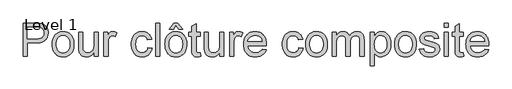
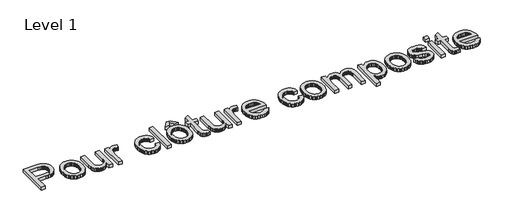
# One storey, part 3 of 4: 1 proxy.
"""IFC4 building model written with IfcOpenShell, lengths in millimetres."""

from ifc_helpers import new_model, si_unit, origin, origin_with_axes, place, context, project, spatial, polyline, outline, extrude, element, save

model = new_model("IFC4")

# Units and contexts
model_context = context("Model", 3, world=origin())
ifc_project = project(units=[si_unit("LENGTHUNIT", "METRE", prefix="MILLI")], contexts=[model_context])

# Site, building, storey
site = spatial("IfcSite", under=ifc_project)
building = spatial("IfcBuilding", under=site)
storey = spatial("IfcBuildingStorey", under=building, Name="Level 1", Elevation=0.0)

# Proxy
placement = place(None, origin())
element("IfcBuildingElementProxy", 1, Name="24\" Arial", ObjectType="24\" Arial", at=placement, inside=storey, context=model_context, shape_type="SweptSolid", body=[
    extrude(outline(polyline([(-79427.594753, 8375.4761138), (-79427.594753, 9882.320766), (-78869.1498843, 9882.320766), (-78739.103599, 9878.7339166), (-78644.0061033, 9867.9733682), (-78591.5944153, 9856.6724932), (-78543.6203038, 9841.1639678), (-78500.083769, 9821.4477922), (-78460.9848107, 9797.5239662), (-78425.9095617, 9768.8981484), (-78394.4441548, 9735.0759975), (-78366.58859, 9696.0575134), (-78342.3428672, 9651.8426961), (-78322.7071657, 9603.8915773), (-78308.6816647, 9553.6641886), (-78300.266364, 9501.1605301), (-78297.4612638, 9446.3806018), (-78299.3552813, 9399.205484), (-78305.0373336, 9353.8812726), (-78314.5074209, 9310.4079674), (-78327.7655432, 9268.7855686), (-78344.8117003, 9229.014076), (-78365.6458924, 9191.0934897), (-78390.2681193, 9155.0238097), (-78418.6783812, 9120.805036), (-78452.0320574, 9089.592548), (-78491.4845273, 9062.541725), (-78537.0357909, 9039.6525672), (-78588.6858482, 9020.9250743), (-78646.4346993, 9006.3592466), (-78710.282344, 8995.9550839), (-78780.2287824, 8989.7125863), (-78856.2740145, 8987.6317538), (-79239.2391715, 8987.6317538), (-79239.2391715, 8375.4761138), (-79427.594753, 8375.4761138)]), holes=[polyline([(-79239.2391715, 9175.9873353), (-78845.2375546, 9175.9873353), (-78754.6466133, 9180.3099487), (-78678.2191288, 9193.2777891), (-78645.3166829, 9203.0036693), (-78615.9551011, 9214.8908563), (-78590.1343836, 9228.93935), (-78567.8545303, 9245.1491504), (-78531.9630431, 9283.2479295), (-78506.3262666, 9328.3824518), (-78490.9442006, 9380.5527172), (-78485.8168453, 9439.7587258), (-78488.8403755, 9483.7206243), (-78497.9109659, 9524.3715847), (-78513.0286167, 9561.7116072), (-78534.1933277, 9595.7406918), (-78560.2784604, 9625.3551924), (-78590.1573762, 9649.4514631), (-78623.8300751, 9668.0295039), (-78661.296557, 9681.0893147), (-78733.9532511, 9690.7462171), (-78849.6521386, 9693.9651845), (-79239.2391715, 9693.9651845), (-79239.2391715, 9175.9873353)])]), origin_with_axes(), (0.0, 0.0, 1.0), 150.0),
    extrude(outline(polyline([(-78109.1056823, 8928.7706345), (-78106.5592491, 9002.9046047), (-78098.9199495, 9072.0836643), (-78086.1877836, 9136.3078132), (-78068.3627513, 9195.5770515), (-78045.4448526, 9249.8913792), (-78017.4340876, 9299.2507963), (-77984.3304562, 9343.6553028), (-77946.1339584, 9383.1048986), (-77911.1736726, 9411.8169387), (-77874.3509841, 9436.7007068), (-77835.6658931, 9457.7562028), (-77795.1183994, 9474.9834269), (-77752.7085031, 9488.3823789), (-77708.4362043, 9497.953059), (-77662.3015028, 9503.695467), (-77614.3043988, 9505.609603), (-77561.1023393, 9503.2787257), (-77510.3892314, 9496.2860937), (-77462.1650752, 9484.631707), (-77416.4298706, 9468.3155657), (-77373.1836176, 9447.3376698), (-77332.4263163, 9421.6980191), (-77294.1579665, 9391.3966139), (-77258.3785684, 9356.4334539), (-77226.0020788, 9317.3603623), (-77197.9424544, 9274.7291621), (-77174.1996953, 9228.5398531), (-77154.7738015, 9178.7924355), (-77139.664773, 9125.4869092), (-77128.8726098, 9068.6232743), (-77122.3973119, 9008.2015306), (-77120.2388792, 8944.2216783), (-77124.0556549, 8843.399019), (-77135.505982, 8753.9347163), (-77154.5898605, 8675.8287702), (-77181.3072904, 8609.0811807), (-77215.3248787, 8551.4271743), (-77256.3092322, 8500.6019774), (-77304.260351, 8456.60559), (-77359.1782351, 8419.4380122), (-77418.9245704, 8389.9039858), (-77481.3610428, 8368.8082526), (-77546.4876522, 8356.1508127), (-77614.3043988, 8351.9316661), (-77668.345689, 8354.2539212), (-77719.7370793, 8361.2206865), (-77768.4785696, 8372.831962), (-77814.5701599, 8389.0877476), (-77858.0118502, 8409.9880435), (-77898.8036405, 8435.5328495), (-77936.9455308, 8465.7221657), (-77972.4375211, 8500.5559922), (-78004.4691214, 8539.7584173), (-78032.2298416, 8583.0535296), (-78055.7196818, 8630.4413291), (-78074.938642, 8681.9218158), (-78089.8867221, 8737.4949897), (-78100.5639222, 8797.1608508), (-78106.9702423, 8860.9193991), (-78109.1056823, 8928.7706345)]), holes=[polyline([(-77920.7501008, 8929.1385165), (-77915.3008487, 8837.7773223), (-77908.4892836, 8796.692376), (-77898.9530925, 8758.671197), (-77886.6922754, 8723.7137852), (-77871.7068323, 8691.8201407), (-77853.9967631, 8662.9902634), (-77833.5620679, 8637.2241534), (-77811.0637846, 8614.5045661), (-77787.1629513, 8594.8142571), (-77761.8595678, 8578.1532264), (-77735.1536342, 8564.5214741), (-77707.0451505, 8553.919), (-77677.5341167, 8546.3458042), (-77614.3043988, 8540.2872476), (-77551.3965776, 8546.3802932), (-77522.0120032, 8553.9966001), (-77494.0069863, 8564.6594298), (-77467.3815269, 8578.3687823), (-77442.135625, 8595.1246575), (-77418.2692806, 8614.9270556), (-77395.7824936, 8637.7759764), (-77375.3477984, 8663.746146), (-77357.6377293, 8692.9122904), (-77342.6522861, 8725.2744096), (-77330.391469, 8760.8325037), (-77320.8552779, 8799.5865727), (-77314.0437128, 8841.5366164), (-77308.5944608, 8935.0246285), (-77314.0782018, 9023.488752), (-77320.932878, 9063.4355633), (-77330.5294247, 9100.525541), (-77342.867842, 9134.7586851), (-77357.9481297, 9166.1349956), (-77375.7702879, 9194.6544725), (-77396.3343166, 9220.3171157), (-77442.8598927, 9262.727012), (-77468.1144169, 9279.3880426), (-77494.6967651, 9293.019795), (-77522.6069374, 9303.6222691), (-77551.8449338, 9311.1954648), (-77614.3043988, 9317.2540214), (-77677.5341167, 9311.2184575), (-77707.0451505, 9303.6740025), (-77735.1536342, 9293.1117655), (-77761.8595678, 9279.5317466), (-77787.1629513, 9262.9339456), (-77811.0637846, 9243.3183627), (-77833.5620679, 9220.6849977), (-77853.9967631, 9195.00511), (-77871.7068323, 9166.2499587), (-77886.6922754, 9134.4195439), (-77898.9530925, 9099.5138656), (-77908.4892836, 9061.5329236), (-77915.3008487, 9020.4767182), (-77920.7501008, 8929.1385165)])]), origin_with_axes(), (0.0, 0.0, 1.0), 150.0),
    extrude(outline(polyline([(-76202.0054193, 8375.4761138), (-76202.0054193, 8565.6711053), (-76234.677939, 8515.5759242), (-76270.1555589, 8472.1601007), (-76308.438279, 8435.4236345), (-76349.5260994, 8405.3665259), (-76393.4190199, 8381.9887747), (-76440.1170407, 8365.2903811), (-76489.6201616, 8355.2713448), (-76541.9283828, 8351.9316661), (-76588.5919147, 8354.2769138), (-76633.6689554, 8361.312657), (-76677.159505, 8373.0388956), (-76719.0635635, 8389.4556296), (-76757.5302246, 8409.4132279), (-76790.7085821, 8431.7620591), (-76818.5986358, 8456.5021232), (-76841.2003859, 8483.6334204), (-76859.6749598, 8513.5468251), (-76875.1834852, 8546.6332121), (-76887.725962, 8582.8925812), (-76897.3023902, 8622.3249326), (-76905.5797351, 8693.6940396), (-76908.33885, 8797.4367623), (-76908.33885, 9482.0651553), (-76719.9832685, 9482.0651553), (-76719.9832685, 8886.0963231), (-76717.132183, 8766.9025567), (-76708.5789266, 8694.0619216), (-76697.3010442, 8660.1133113), (-76681.1257328, 8630.0044692), (-76660.0529922, 8603.7353955), (-76634.0828226, 8581.3060901), (-76603.9969732, 8563.3603465), (-76570.5771932, 8550.5419583), (-76533.8234826, 8542.8509253), (-76493.7358415, 8540.2872476), (-76452.4525838, 8542.9084069), (-76412.4799058, 8550.7718845), (-76373.8178073, 8563.8776806), (-76336.4662885, 8582.2257951), (-76302.4487003, 8605.0919603), (-76273.7883936, 8631.7519087), (-76250.4853685, 8662.2056401), (-76232.5396249, 8696.4531546), (-76219.1809099, 8736.6787515), (-76209.6389707, 8785.0667302), (-76203.9138071, 8841.6170906), (-76202.0054193, 8906.3298328), (-76202.0054193, 9482.0651553), (-76013.6498378, 9482.0651553), (-76013.6498378, 8375.4761138), (-76202.0054193, 8375.4761138)])), origin_with_axes(), (0.0, 0.0, 1.0), 150.0),
    extrude(outline(polyline([(-75754.6609131, 8375.4761138), (-75754.6609131, 9482.0651553), (-75589.8497793, 9482.0651553), (-75589.8497793, 9318.3576674), (-75558.809736, 9370.6888812), (-75528.9653091, 9413.2712222), (-75500.3164987, 9446.1046903), (-75472.8633048, 9469.1892855), (-75445.3641257, 9485.1231744), (-75416.5773596, 9496.5045236), (-75386.5030065, 9503.3333331), (-75355.1410664, 9505.609603), (-75308.420053, 9501.9767683), (-75261.3311576, 9491.0782642), (-75213.8743802, 9472.9140907), (-75166.0497209, 9447.4842477), (-75228.957542, 9278.626412), (-75262.0669216, 9295.5259911), (-75295.1763012, 9307.5971191), (-75328.2856807, 9314.8397959), (-75361.3950603, 9317.2540214), (-75390.2623006, 9314.9317664), (-75417.6350203, 9307.9650011), (-75443.5132194, 9296.3537256), (-75467.8968979, 9280.0979399), (-75489.8663508, 9259.7264745), (-75508.5018731, 9235.7681595), (-75523.8034649, 9208.2229951), (-75535.771126, 9177.0909813), (-75549.129841, 9125.6794725), (-75558.6717802, 9071.8767307), (-75564.3969438, 9015.6827559), (-75566.3053316, 8957.0975482), (-75566.3053316, 8375.4761138), (-75754.6609131, 8375.4761138)])), origin_with_axes(), (0.0, 0.0, 1.0), 150.0),
    extrude(outline(polyline([(-73753.3828594, 8775.7317245), (-73565.0272779, 8752.1872769), (-73573.827705, 8706.4693167), (-73585.5137065, 8663.3092861), (-73600.0852824, 8622.7071849), (-73617.5424327, 8584.6630133), (-73637.8851574, 8549.1767712), (-73661.1134565, 8516.2484585), (-73687.22733, 8485.8780754), (-73716.2267779, 8458.0656217), (-73747.5312364, 8433.1904759), (-73780.5601418, 8411.6320161), (-73815.313494, 8393.3902425), (-73851.7912931, 8378.465155), (-73889.993539, 8366.8567536), (-73929.9202318, 8358.5650383), (-73971.5713715, 8353.5900092), (-74014.946958, 8351.9316661), (-74069.1319521, 8354.245299), (-74120.5865721, 8361.1861975), (-74169.310818, 8372.7543618), (-74215.3046896, 8388.9497919), (-74258.568187, 8409.7724876), (-74299.1013103, 8435.2224491), (-74336.9040594, 8465.2996763), (-74371.9764343, 8500.0041692), (-74403.5769228, 8539.0312755), (-74430.9640129, 8582.076343), (-74454.1377046, 8629.1393717), (-74473.0979977, 8680.2203616), (-74487.8448924, 8735.3193126), (-74498.3783886, 8794.4362247), (-74504.6984863, 8857.5710981), (-74506.8051855, 8924.7239326), (-74503.2068397, 9011.3256535), (-74492.4118024, 9092.3401666), (-74474.4200736, 9167.767472), (-74449.2316533, 9237.6075695), (-74416.6740967, 9300.4579091), (-74376.5749592, 9354.9159407), (-74328.9342408, 9400.9816643), (-74273.7519416, 9438.6550799), (-74213.5227612, 9467.9476837), (-74150.7413994, 9488.8709722), (-74085.4078563, 9501.4249453), (-74017.5221319, 9505.609603), (-73933.9554375, 9499.8614468), (-73895.1640055, 9492.6762516), (-73858.3671838, 9482.6169783), (-73823.5649722, 9469.6836269), (-73790.7573708, 9453.8761974), (-73759.9443797, 9435.1946898), (-73731.1259987, 9413.6391042), (-73704.5551468, 9389.4393667), (-73680.4847428, 9362.8254036), (-73658.9147867, 9333.7972149), (-73639.8452786, 9302.3548006), (-73623.2762185, 9268.4981608), (-73609.2076062, 9232.2272953), (-73588.5717255, 9152.4428876), (-73776.9273071, 9128.8984399), (-73791.6310906, 9172.8948273), (-73811.0943474, 9211.0740806), (-73835.3170775, 9243.4361999), (-73864.2992809, 9269.9811851), (-73897.3051937, 9290.663051), (-73933.5990518, 9305.4358124), (-73973.1808552, 9314.2994692), (-74016.0506039, 9317.2540214), (-74080.0505748, 9311.4368874), (-74109.6966903, 9304.1654698), (-74137.7735591, 9293.9854853), (-74164.2811813, 9280.8969336), (-74189.2195569, 9264.899815), (-74212.5886858, 9245.9941294), (-74234.3885681, 9224.1798767), (-74254.0903734, 9199.2213826), (-74271.1652713, 9170.8829726), (-74285.6132618, 9139.1646468), (-74297.434345, 9104.0664052), (-74306.6285208, 9065.5882478), (-74313.1957892, 9023.7301745), (-74318.449604, 8929.8742805), (-74313.3107524, 8834.6043401), (-74306.8871878, 8792.2203105), (-74297.8941975, 8753.3369081), (-74286.3317814, 8717.9541328), (-74272.1999394, 8686.0719845), (-74255.4986716, 8657.6904634), (-74236.2279781, 8632.8095694), (-74214.8822001, 8611.1246503), (-74191.9556792, 8592.3310536), (-74167.4484153, 8576.4287796), (-74141.3604086, 8563.4178281), (-74113.6916588, 8553.2981991), (-74084.4421661, 8546.0698927), (-74021.2009519, 8540.2872476), (-73970.2377992, 8543.8970897), (-73923.6662379, 8554.7266159), (-73881.4862679, 8572.7758263), (-73843.6978892, 8598.0447209), (-73811.3587626, 8630.8092111), (-73785.5265487, 8671.3452084), (-73766.2012477, 8719.6527129), (-73753.3828594, 8775.7317245)])), origin_with_axes(), (0.0, 0.0, 1.0), 150.0),
    extrude(outline(polyline([(-73400.216144, 8375.4761138), (-73400.216144, 9882.320766), (-73211.8605625, 9882.320766), (-73211.8605625, 8375.4761138), (-73400.216144, 8375.4761138)])), origin_with_axes(), (0.0, 0.0, 1.0), 150.0),
    extrude(outline(polyline([(-72976.4160856, 8928.7706345), (-72973.8696524, 9002.9046047), (-72966.2303528, 9072.0836643), (-72953.4981869, 9136.3078132), (-72935.6731546, 9195.5770515), (-72912.7552559, 9249.8913792), (-72884.7444909, 9299.2507963), (-72851.6408595, 9343.6553028), (-72813.4443617, 9383.1048986), (-72778.4840759, 9411.8169387), (-72741.6613874, 9436.7007068), (-72702.9762963, 9457.7562028), (-72662.4288027, 9474.9834269), (-72620.0189064, 9488.3823789), (-72575.7466076, 9497.953059), (-72529.6119061, 9503.695467), (-72481.6148021, 9505.609603), (-72428.4127426, 9503.2787257), (-72377.6996347, 9496.2860937), (-72329.4754785, 9484.631707), (-72283.7402739, 9468.3155657), (-72240.4940209, 9447.3376698), (-72199.7367196, 9421.6980191), (-72161.4683698, 9391.3966139), (-72125.6889717, 9356.4334539), (-72093.3124821, 9317.3603623), (-72065.2528577, 9274.7291621), (-72041.5100986, 9228.5398531), (-72022.0842048, 9178.7924355), (-72006.9751763, 9125.4869092), (-71996.1830131, 9068.6232743), (-71989.7077152, 9008.2015306), (-71987.5492825, 8944.2216783), (-71991.3660582, 8843.399019), (-72002.8163853, 8753.9347163), (-72021.9002638, 8675.8287702), (-72048.6176937, 8609.0811807), (-72082.635282, 8551.4271743), (-72123.6196355, 8500.6019774), (-72171.5707543, 8456.60559), (-72226.4886384, 8419.4380122), (-72286.2349737, 8389.9039858), (-72348.6714461, 8368.8082526), (-72413.7980555, 8356.1508127), (-72481.6148021, 8351.9316661), (-72535.6560923, 8354.2539212), (-72587.0474826, 8361.2206865), (-72635.7889729, 8372.831962), (-72681.8805632, 8389.0877476), (-72725.3222535, 8409.9880435), (-72766.1140438, 8435.5328495), (-72804.2559341, 8465.7221657), (-72839.7479244, 8500.5559922), (-72871.7795246, 8539.7584173), (-72899.5402449, 8583.0535296), (-72923.0300851, 8630.4413291), (-72942.2490453, 8681.9218158), (-72957.1971254, 8737.4949897), (-72967.8743255, 8797.1608508), (-72974.2806456, 8860.9193991), (-72976.4160856, 8928.7706345)]), holes=[polyline([(-72788.060504, 8929.1385165), (-72782.611252, 8837.7773223), (-72775.7996869, 8796.692376), (-72766.2634958, 8758.671197), (-72754.0026787, 8723.7137852), (-72739.0172356, 8691.8201407), (-72721.3071664, 8662.9902634), (-72700.8724712, 8637.2241534), (-72678.3741879, 8614.5045661), (-72654.4733545, 8594.8142571), (-72629.1699711, 8578.1532264), (-72602.4640375, 8564.5214741), (-72574.3555538, 8553.919), (-72544.84452, 8546.3458042), (-72481.6148021, 8540.2872476), (-72418.7069809, 8546.3802932), (-72389.3224065, 8553.9966001), (-72361.3173896, 8564.6594298), (-72334.6919302, 8578.3687823), (-72309.4460283, 8595.1246575), (-72285.5796839, 8614.9270556), (-72263.0928969, 8637.7759764), (-72242.6582017, 8663.746146), (-72224.9481326, 8692.9122904), (-72209.9626894, 8725.2744096), (-72197.7018723, 8760.8325037), (-72188.1656812, 8799.5865727), (-72181.3541161, 8841.5366164), (-72175.9048641, 8935.0246285), (-72181.3886051, 9023.488752), (-72188.2432813, 9063.4355633), (-72197.839828, 9100.525541), (-72210.1782453, 9134.7586851), (-72225.258533, 9166.1349956), (-72243.0806912, 9194.6544725), (-72263.6447199, 9220.3171157), (-72310.170296, 9262.727012), (-72335.4248202, 9279.3880426), (-72362.0071684, 9293.019795), (-72389.9173407, 9303.6222691), (-72419.1553371, 9311.1954648), (-72481.6148021, 9317.2540214), (-72544.84452, 9311.2184575), (-72574.3555538, 9303.6740025), (-72602.4640375, 9293.1117655), (-72629.1699711, 9279.5317466), (-72654.4733545, 9262.9339456), (-72678.3741879, 9243.3183627), (-72700.8724712, 9220.6849977), (-72721.3071664, 9195.00511), (-72739.0172356, 9166.2499587), (-72754.0026787, 9134.4195439), (-72766.2634958, 9099.5138656), (-72775.7996869, 9061.5329236), (-72782.611252, 9020.4767182), (-72788.060504, 8929.1385165)])]), origin_with_axes(), (0.0, 0.0, 1.0), 150.0),
    extrude(outline(polyline([(-72481.9826841, 9788.1429753), (-72587.9326987, 9599.7873937), (-72776.2882802, 9599.7873937), (-72576.1604748, 9882.320766), (-72387.8048933, 9882.320766), (-72164.1326402, 9599.7873937), (-72352.4882218, 9599.7873937), (-72481.9826841, 9788.1429753)])), origin_with_axes(), (0.0, 0.0, 1.0), 150.0),
    extrude(outline(polyline([(-71375.3936426, 8532.5617257), (-71351.8491949, 8369.9578839), (-71426.4372694, 8356.4382205), (-71492.747999, 8351.9316661), (-71540.8255773, 8353.8860392), (-71583.1549993, 8359.7491585), (-71619.7362652, 8369.521024), (-71650.569375, 8383.2016357), (-71676.4590704, 8400.0552296), (-71698.2100933, 8419.3460417), (-71715.8224439, 8441.0740721), (-71729.2961219, 8465.2393206), (-71739.274921, 8497.6359288), (-71746.4026347, 8544.0580381), (-71750.6792629, 8604.5056484), (-71752.1048056, 8678.9787598), (-71752.1048056, 9293.7095738), (-71893.3714918, 9293.7095738), (-71893.3714918, 9482.0651553), (-71752.1048056, 9482.0651553), (-71752.1048056, 9750.9868938), (-71563.7492241, 9861.7193743), (-71563.7492241, 9482.0651553), (-71375.3936426, 9482.0651553), (-71375.3936426, 9293.7095738), (-71563.7492241, 9293.7095738), (-71563.7492241, 8684.4969897), (-71561.2660206, 8622.5088736), (-71553.8164102, 8587.376143), (-71540.8025846, 8567.9243825), (-71521.6267356, 8552.9791765), (-71494.4494533, 8543.4602298), (-71457.4313275, 8540.2872476), (-71375.3936426, 8532.5617257)])), origin_with_axes(), (0.0, 0.0, 1.0), 150.0),
    extrude(outline(polyline([(-70480.7046303, 8375.4761138), (-70480.7046303, 8565.6711053), (-70513.37715, 8515.5759242), (-70548.8547699, 8472.1601007), (-70587.13749, 8435.4236345), (-70628.2253104, 8405.3665259), (-70672.1182309, 8381.9887747), (-70718.8162517, 8365.2903811), (-70768.3193726, 8355.2713448), (-70820.6275938, 8351.9316661), (-70867.2911257, 8354.2769138), (-70912.3681664, 8361.312657), (-70955.858716, 8373.0388956), (-70997.7627745, 8389.4556296), (-71036.2294356, 8409.4132279), (-71069.4077931, 8431.7620591), (-71097.2978468, 8456.5021232), (-71119.8995969, 8483.6334204), (-71138.3741709, 8513.5468251), (-71153.8826962, 8546.6332121), (-71166.425173, 8582.8925812), (-71176.0016012, 8622.3249326), (-71184.2789461, 8693.6940396), (-71187.038061, 8797.4367623), (-71187.038061, 9482.0651553), (-70998.6824795, 9482.0651553), (-70998.6824795, 8886.0963231), (-70995.831394, 8766.9025567), (-70987.2781377, 8694.0619216), (-70976.0002552, 8660.1133113), (-70959.8249438, 8630.0044692), (-70938.7522032, 8603.7353955), (-70912.7820336, 8581.3060901), (-70882.6961842, 8563.3603465), (-70849.2764042, 8550.5419583), (-70812.5226936, 8542.8509253), (-70772.4350525, 8540.2872476), (-70731.1517948, 8542.9084069), (-70691.1791168, 8550.7718845), (-70652.5170184, 8563.8776806), (-70615.1654995, 8582.2257951), (-70581.1479113, 8605.0919603), (-70552.4876046, 8631.7519087), (-70529.1845795, 8662.2056401), (-70511.2388359, 8696.4531546), (-70497.8801209, 8736.6787515), (-70488.3381817, 8785.0667302), (-70482.6130181, 8841.6170906), (-70480.7046303, 8906.3298328), (-70480.7046303, 9482.0651553), (-70292.3490488, 9482.0651553), (-70292.3490488, 8375.4761138), (-70480.7046303, 8375.4761138)])), origin_with_axes(), (0.0, 0.0, 1.0), 150.0),
    extrude(outline(polyline([(-70033.3601242, 8375.4761138), (-70033.3601242, 9482.0651553), (-69868.5489903, 9482.0651553), (-69868.5489903, 9318.3576674), (-69837.508947, 9370.6888812), (-69807.6645201, 9413.2712222), (-69779.0157097, 9446.1046903), (-69751.5625159, 9469.1892855), (-69724.0633367, 9485.1231744), (-69695.2765706, 9496.5045236), (-69665.2022175, 9503.3333331), (-69633.8402774, 9505.609603), (-69587.119264, 9501.9767683), (-69540.0303686, 9491.0782642), (-69492.5735913, 9472.9140907), (-69444.7489319, 9447.4842477), (-69507.6567531, 9278.626412), (-69540.7661326, 9295.5259911), (-69573.8755122, 9307.5971191), (-69606.9848918, 9314.8397959), (-69640.0942713, 9317.2540214), (-69668.9615116, 9314.9317664), (-69696.3342313, 9307.9650011), (-69722.2124304, 9296.3537256), (-69746.5961089, 9280.0979399), (-69768.5655618, 9259.7264745), (-69787.2010841, 9235.7681595), (-69802.5026759, 9208.2229951), (-69814.470337, 9177.0909813), (-69827.829052, 9125.6794725), (-69837.3709912, 9071.8767307), (-69843.0961548, 9015.6827559), (-69845.0045426, 8957.0975482), (-69845.0045426, 8375.4761138), (-70033.3601242, 8375.4761138)])), origin_with_axes(), (0.0, 0.0, 1.0), 150.0),
    extrude(outline(polyline([(-68552.2672116, 8705.0983815), (-68367.59045, 8681.5539338), (-68395.9058673, 8607.5866601), (-68413.7797589, 8573.8967168), (-68434.1311059, 8542.4025691), (-68456.9599081, 8513.1042171), (-68482.2661657, 8486.0016607), (-68510.0498786, 8461.0949), (-68540.3110467, 8438.383935), (-68572.9002182, 8418.1216845), (-68607.6679408, 8400.5610673), (-68644.6142146, 8385.7020836), (-68683.7390396, 8373.5447333), (-68768.5243432, 8357.3349329), (-68862.0238515, 8351.9316661), (-68922.0518464, 8354.2625434), (-68978.8953629, 8361.2551754), (-69032.5544007, 8372.9095621), (-69083.0289601, 8389.2257034), (-69130.319041, 8410.2035993), (-69174.4246433, 8435.8432499), (-69215.3457671, 8466.1446552), (-69253.0824124, 8501.1078151), (-69286.967793, 8540.2786254), (-69316.3351229, 8583.2029816), (-69341.1844021, 8629.8808839), (-69361.5156305, 8680.3123321), (-69377.3288081, 8734.4973262), (-69388.623935, 8792.4358664), (-69395.4010111, 8854.1279525), (-69397.6600365, 8919.5735847), (-69395.3780185, 8987.2466273), (-69388.5319645, 9051.0224201), (-69377.1218745, 9110.9009629), (-69361.1477485, 9166.8822559), (-69340.6095865, 9218.966299), (-69315.5073884, 9267.1530922), (-69285.8411544, 9311.4426356), (-69251.6108844, 9351.834929), (-69213.7420315, 9387.8758682), (-69173.1600489, 9419.1113489), (-69129.8649366, 9445.541371), (-69083.8566946, 9467.1659345), (-69035.1353229, 9483.9850395), (-68983.7008214, 9495.9986859), (-68929.5531903, 9503.2068737), (-68872.6924294, 9505.609603), (-68817.691197, 9503.2126219), (-68765.2593905, 9496.0216785), (-68715.3970097, 9484.0367729), (-68668.1040548, 9467.257905), (-68623.3805257, 9445.6850749), (-68581.2264224, 9419.3182825), (-68541.6417449, 9388.1575279), (-68504.6264932, 9352.202811), (-68471.1291131, 9311.9024881), (-68442.0980503, 9267.7049152), (-68417.5333049, 9219.6100925), (-68397.4348769, 9167.6180199), (-68381.8027661, 9111.7286974), (-68370.6369728, 9051.9421251), (-68363.9374968, 8988.2583028), (-68361.7043381, 8920.6772306), (-68362.8079841, 8869.9095153), (-69209.304455, 8869.9095153), (-69198.3944545, 8794.7466252), (-69188.8956265, 8760.6658072), (-69176.7009131, 8728.9187407), (-69161.8103146, 8699.5054255), (-69144.2238308, 8672.4258618), (-69123.9414617, 8647.6800494), (-69100.9632074, 8625.2679885), (-69049.310276, 8588.0889144), (-68991.6562696, 8561.5324329), (-68928.0011881, 8545.5985439), (-68858.3450316, 8540.2872476), (-68806.243744, 8542.7474585), (-68758.0971879, 8550.128091), (-68713.9053632, 8562.4291452), (-68673.66827, 8579.6506211), (-68637.3859082, 8602.2523712), (-68605.0582779, 8630.694248), (-68576.685379, 8664.9762514), (-68552.2672116, 8705.0983815)]), holes=[polyline([(-69209.304455, 9058.2650968), (-68550.0599196, 9058.2650968), (-68559.7398146, 9111.5620009), (-68575.5357478, 9157.7771765), (-68597.4477191, 9196.9106238), (-68625.4757286, 9228.9623426), (-68650.2732744, 9249.6557048), (-68676.8412522, 9267.5899521), (-68705.1796621, 9282.7650844), (-68735.2885042, 9295.1811017), (-68800.8174846, 9311.7357915), (-68873.4281934, 9317.2540214), (-68939.6584488, 9312.8509338), (-69000.393467, 9299.6416709), (-69055.6332478, 9277.6262328), (-69105.3777913, 9246.8046194), (-69147.1209015, 9208.6023734), (-69178.3563821, 9164.4450377), (-69199.0842333, 9114.3326122), (-69209.304455, 9058.2650968)])]), origin_with_axes(), (0.0, 0.0, 1.0), 150.0),
    extrude(outline(polyline([(-66878.4041335, 8775.7317245), (-66690.048552, 8752.1872769), (-66698.8489791, 8706.4693167), (-66710.5349806, 8663.3092861), (-66725.1065565, 8622.7071849), (-66742.5637068, 8584.6630133), (-66762.9064315, 8549.1767712), (-66786.1347306, 8516.2484585), (-66812.2486041, 8485.8780754), (-66841.248052, 8458.0656217), (-66872.5525105, 8433.1904759), (-66905.5814159, 8411.6320161), (-66940.3347681, 8393.3902425), (-66976.8125672, 8378.465155), (-67015.0148132, 8366.8567536), (-67054.941506, 8358.5650383), (-67096.5926456, 8353.5900092), (-67139.9682321, 8351.9316661), (-67194.1532263, 8354.245299), (-67245.6078463, 8361.1861975), (-67294.3320921, 8372.7543618), (-67340.3259637, 8388.9497919), (-67383.5894612, 8409.7724876), (-67424.1225844, 8435.2224491), (-67461.9253335, 8465.2996763), (-67496.9977084, 8500.0041692), (-67528.598197, 8539.0312755), (-67555.9852871, 8582.076343), (-67579.1589787, 8629.1393717), (-67598.1192718, 8680.2203616), (-67612.8661665, 8735.3193126), (-67623.3996627, 8794.4362247), (-67629.7197604, 8857.5710981), (-67631.8264596, 8924.7239326), (-67628.2281139, 9011.3256535), (-67617.4330766, 9092.3401666), (-67599.4413478, 9167.767472), (-67574.2529274, 9237.6075695), (-67541.6953708, 9300.4579091), (-67501.5962334, 9354.9159407), (-67453.955515, 9400.9816643), (-67398.7732157, 9438.6550799), (-67338.5440353, 9467.9476837), (-67275.7626736, 9488.8709722), (-67210.4291305, 9501.4249453), (-67142.5434061, 9505.609603), (-67058.9767116, 9499.8614468), (-67020.1852796, 9492.6762516), (-66983.3884579, 9482.6169783), (-66948.5862463, 9469.6836269), (-66915.778645, 9453.8761974), (-66884.9656538, 9435.1946898), (-66856.1472728, 9413.6391042), (-66829.5764209, 9389.4393667), (-66805.5060169, 9362.8254036), (-66783.9360609, 9333.7972149), (-66764.8665528, 9302.3548006), (-66748.2974926, 9268.4981608), (-66734.2288804, 9232.2272953), (-66713.5929997, 9152.4428876), (-66901.9485812, 9128.8984399), (-66916.6523647, 9172.8948273), (-66936.1156215, 9211.0740806), (-66960.3383516, 9243.4361999), (-66989.3205551, 9269.9811851), (-67022.3264678, 9290.663051), (-67058.6203259, 9305.4358124), (-67098.2021293, 9314.2994692), (-67141.0718781, 9317.2540214), (-67205.0718489, 9311.4368874), (-67234.7179644, 9304.1654698), (-67262.7948332, 9293.9854853), (-67289.3024554, 9280.8969336), (-67314.240831, 9264.899815), (-67337.6099599, 9245.9941294), (-67359.4098422, 9224.1798767), (-67379.1116475, 9199.2213826), (-67396.1865454, 9170.8829726), (-67410.634536, 9139.1646468), (-67422.4556191, 9104.0664052), (-67431.6497949, 9065.5882478), (-67438.2170634, 9023.7301745), (-67443.4708781, 8929.8742805), (-67438.3320265, 8834.6043401), (-67431.908462, 8792.2203105), (-67422.9154716, 8753.3369081), (-67411.3530555, 8717.9541328), (-67397.2212135, 8686.0719845), (-67380.5199458, 8657.6904634), (-67361.2492522, 8632.8095694), (-67339.9034742, 8611.1246503), (-67316.9769533, 8592.3310536), (-67292.4696895, 8576.4287796), (-67266.3816827, 8563.4178281), (-67238.7129329, 8553.2981991), (-67209.4634402, 8546.0698927), (-67146.222226, 8540.2872476), (-67095.2590734, 8543.8970897), (-67048.687512, 8554.7266159), (-67006.507542, 8572.7758263), (-66968.7191633, 8598.0447209), (-66936.3800367, 8630.8092111), (-66910.5478229, 8671.3452084), (-66891.2225218, 8719.6527129), (-66878.4041335, 8775.7317245)])), origin_with_axes(), (0.0, 0.0, 1.0), 150.0),
    extrude(outline(polyline([(-66572.3263135, 8928.7706345), (-66569.7798804, 9002.9046047), (-66562.1405808, 9072.0836643), (-66549.4084149, 9136.3078132), (-66531.5833826, 9195.5770515), (-66508.6654839, 9249.8913792), (-66480.6547189, 9299.2507963), (-66447.5510875, 9343.6553028), (-66409.3545897, 9383.1048986), (-66374.3943038, 9411.8169387), (-66337.5716154, 9436.7007068), (-66298.8865243, 9457.7562028), (-66258.3390307, 9474.9834269), (-66215.9291344, 9488.3823789), (-66171.6568355, 9497.953059), (-66125.5221341, 9503.695467), (-66077.52503, 9505.609603), (-66024.3229705, 9503.2787257), (-65973.6098627, 9496.2860937), (-65925.3857065, 9484.631707), (-65879.6505019, 9468.3155657), (-65836.4042489, 9447.3376698), (-65795.6469475, 9421.6980191), (-65757.3785978, 9391.3966139), (-65721.5991997, 9356.4334539), (-65689.22271, 9317.3603623), (-65661.1630857, 9274.7291621), (-65637.4203266, 9228.5398531), (-65617.9944328, 9178.7924355), (-65602.8854043, 9125.4869092), (-65592.0932411, 9068.6232743), (-65585.6179431, 9008.2015306), (-65583.4595105, 8944.2216783), (-65587.2762862, 8843.399019), (-65598.7266133, 8753.9347163), (-65617.8104918, 8675.8287702), (-65644.5279217, 8609.0811807), (-65678.5455099, 8551.4271743), (-65719.5298635, 8500.6019774), (-65767.4809823, 8456.60559), (-65822.3988664, 8419.4380122), (-65882.1452016, 8389.9039858), (-65944.581674, 8368.8082526), (-66009.7082835, 8356.1508127), (-66077.52503, 8351.9316661), (-66131.5663203, 8354.2539212), (-66182.9577106, 8361.2206865), (-66231.6992009, 8372.831962), (-66277.7907911, 8389.0877476), (-66321.2324814, 8409.9880435), (-66362.0242717, 8435.5328495), (-66400.166162, 8465.7221657), (-66435.6581523, 8500.5559922), (-66467.6897526, 8539.7584173), (-66495.4504729, 8583.0535296), (-66518.9403131, 8630.4413291), (-66538.1592732, 8681.9218158), (-66553.1073534, 8737.4949897), (-66563.7845535, 8797.1608508), (-66570.1908735, 8860.9193991), (-66572.3263135, 8928.7706345)]), holes=[polyline([(-66383.970732, 8929.1385165), (-66378.52148, 8837.7773223), (-66371.7099149, 8796.692376), (-66362.1737238, 8758.671197), (-66349.9129067, 8723.7137852), (-66334.9274635, 8691.8201407), (-66317.2173944, 8662.9902634), (-66296.7826991, 8637.2241534), (-66274.2844159, 8614.5045661), (-66250.3835825, 8594.8142571), (-66225.080199, 8578.1532264), (-66198.3742654, 8564.5214741), (-66170.2657817, 8553.919), (-66140.7547479, 8546.3458042), (-66077.52503, 8540.2872476), (-66014.6172088, 8546.3802932), (-65985.2326345, 8553.9966001), (-65957.2276176, 8564.6594298), (-65930.6021582, 8578.3687823), (-65905.3562563, 8595.1246575), (-65881.4899118, 8614.9270556), (-65859.0031249, 8637.7759764), (-65838.5684297, 8663.746146), (-65820.8583605, 8692.9122904), (-65805.8729174, 8725.2744096), (-65793.6121002, 8760.8325037), (-65784.0759092, 8799.5865727), (-65777.2643441, 8841.5366164), (-65771.815092, 8935.0246285), (-65777.298833, 9023.488752), (-65784.1535093, 9063.4355633), (-65793.750056, 9100.525541), (-65806.0884732, 9134.7586851), (-65821.1687609, 9166.1349956), (-65838.9909192, 9194.6544725), (-65859.5549479, 9220.3171157), (-65906.080524, 9262.727012), (-65931.3350481, 9279.3880426), (-65957.9173963, 9293.019795), (-65985.8275686, 9303.6222691), (-66015.065565, 9311.1954648), (-66077.52503, 9317.2540214), (-66140.7547479, 9311.2184575), (-66170.2657817, 9303.6740025), (-66198.3742654, 9293.1117655), (-66225.080199, 9279.5317466), (-66250.3835825, 9262.9339456), (-66274.2844159, 9243.3183627), (-66296.7826991, 9220.6849977), (-66317.2173944, 9195.00511), (-66334.9274635, 9166.2499587), (-66349.9129067, 9134.4195439), (-66362.1737238, 9099.5138656), (-66371.7099149, 9061.5329236), (-66378.52148, 9020.4767182), (-66383.970732, 8929.1385165)])]), origin_with_axes(), (0.0, 0.0, 1.0), 150.0),
    extrude(outline(polyline([(-65371.5594813, 8375.4761138), (-65371.5594813, 9482.0651553), (-65183.2038997, 9482.0651553), (-65183.2038997, 9299.9635677), (-65156.9003371, 9344.0519255), (-65126.5500725, 9383.6107363), (-65092.1531059, 9418.6400001), (-65053.7094374, 9449.1397167), (-65011.8398679, 9473.845292), (-64967.1651981, 9491.4921314), (-64919.6854281, 9502.0802351), (-64869.4005579, 9505.609603), (-64814.4251922, 9502.0112572), (-64764.6461597, 9491.2162199), (-64720.0634604, 9473.2244911), (-64680.6770943, 9448.0360707), (-64646.6020245, 9416.3637302), (-64617.9532142, 9378.9202409), (-64594.7306632, 9335.7056028), (-64576.9343717, 9286.7198159), (-64543.8134958, 9338.0221097), (-64508.2783943, 9382.4840977), (-64470.3290673, 9420.1057799), (-64429.9655146, 9450.8871562), (-64387.1877364, 9474.8282267), (-64341.9957325, 9491.9289913), (-64294.3895031, 9502.1894501), (-64244.3690481, 9505.609603), (-64168.9647354, 9499.9189284), (-64134.7200949, 9492.8055851), (-64102.7804652, 9482.8469045), (-64073.145846, 9470.0428866), (-64045.8162375, 9454.3935315), (-64020.7916396, 9435.898839), (-63998.0720523, 9414.5588092), (-63977.8529129, 9390.2584789), (-63960.3296588, 9362.8828852), (-63945.50229, 9332.4320278), (-63933.3708064, 9298.9059069), (-63923.935208, 9262.3045225), (-63917.1954949, 9222.6278745), (-63911.8037244, 9134.0487879), (-63911.8037244, 8375.4761138), (-64100.1593059, 8375.4761138), (-64100.1593059, 9053.1147489), (-64104.5279046, 9147.0626134), (-64109.988653, 9182.5517297), (-64117.6337007, 9210.3843019), (-64128.1413302, 9233.2274745), (-64142.1898239, 9253.748392), (-64159.7791818, 9271.9470545), (-64180.9094039, 9287.8234618), (-64204.8102373, 9300.6993317), (-64230.711429, 9309.8963815), (-64258.6129791, 9315.4146115), (-64288.5148875, 9317.2540214), (-64341.8922657, 9312.5405334), (-64390.5561559, 9298.4000692), (-64434.506558, 9274.8326289), (-64473.7434721, 9241.8382124), (-64491.0310517, 9221.5644656), (-64506.0136208, 9198.4511296), (-64518.6911793, 9172.4982045), (-64529.0637271, 9143.7056902), (-64542.8937908, 9077.6018942), (-64547.5038121, 9000.1397416), (-64547.5038121, 8375.4761138), (-64735.8593936, 8375.4761138), (-64735.8593936, 9074.0840226), (-64738.5840196, 9131.1517171), (-64746.7578977, 9180.5858602), (-64760.3810279, 9222.3864519), (-64779.45341, 9256.5534922), (-64804.7338009, 9283.1099738), (-64836.980957, 9302.0788891), (-64876.1948785, 9313.4602384), (-64922.3755652, 9317.2540214), (-64959.3706983, 9314.7248327), (-64994.9402887, 9307.1372666), (-65029.0843364, 9294.491323), (-65061.8028413, 9276.787002), (-65091.601283, 9254.2082445), (-65116.9851406, 9226.9389916), (-65137.9544143, 9194.9792433), (-65154.5091041, 9158.3289995), (-65167.0630772, 9115.0338872), (-65176.0302008, 9063.1395333), (-65181.410475, 9002.6459377), (-65183.2038997, 8933.5531005), (-65183.2038997, 8375.4761138), (-65371.5594813, 8375.4761138)])), origin_with_axes(), (0.0, 0.0, 1.0), 150.0),
    extrude(outline(polyline([(-63629.2703521, 7951.6760554), (-63629.2703521, 9482.0651553), (-63440.9147706, 9482.0651553), (-63440.9147706, 9297.3883937), (-63411.116329, 9346.1902396), (-63379.4784774, 9388.4851728), (-63346.0012158, 9424.2731931), (-63310.6845443, 9453.5543007), (-63272.5167873, 9476.3284954), (-63230.4862694, 9492.5957774), (-63184.5929905, 9502.3561466), (-63134.8369506, 9505.609603), (-63069.1470218, 9501.0570633), (-63007.4578098, 9487.3994442), (-62949.7693144, 9464.6367458), (-62896.0815357, 9432.7689679), (-62847.5670976, 9392.6238452), (-62805.3986239, 9345.0291121), (-62769.5761146, 9289.9847686), (-62740.0995698, 9227.4908146), (-62717.0839525, 9159.6855644), (-62700.6442258, 9088.7073319), (-62690.7803898, 9014.5561173), (-62687.4924445, 8937.2319204), (-62691.2057534, 8854.5619383), (-62702.34568, 8776.1455918), (-62720.9122245, 8701.9828808), (-62746.9053867, 8632.0738054), (-62779.968781, 8568.2462793), (-62819.7460217, 8512.328216), (-62866.2371089, 8464.3196156), (-62919.4420424, 8424.2204782), (-62976.7511595, 8392.5941229), (-63035.5547972, 8370.0038691), (-63095.8529554, 8356.4497169), (-63157.6456343, 8351.9316661), (-63202.1018742, 8354.9551963), (-63244.2358589, 8364.0257867), (-63284.0475886, 8379.1434374), (-63321.5370632, 8400.3081485), (-63356.2444301, 8426.0943771), (-63387.709837, 8455.0765805), (-63415.9332839, 8487.2547588), (-63440.9147706, 8522.6289119), (-63440.9147706, 7951.6760554), (-63629.2703521, 7951.6760554)]), holes=[polyline([(-63440.9147706, 8919.9414667), (-63435.8219042, 8829.1665843), (-63420.5433051, 8751.0836309), (-63409.0843558, 8716.8016274), (-63395.0789733, 8685.6926062), (-63378.5271576, 8657.7565672), (-63359.4289087, 8632.9935104), (-63316.5131747, 8592.4345205), (-63269.2518346, 8563.4638133), (-63217.6448885, 8546.0813891), (-63161.6923363, 8540.2872476), (-63104.9350422, 8546.2883227), (-63078.134264, 8553.7896665), (-63052.3853984, 8564.2915478), (-63004.043405, 8594.2969231), (-62959.9090619, 8636.3044484), (-62940.2072566, 8661.9584694), (-62923.1323587, 8690.911932), (-62908.6843681, 8723.1648363), (-62896.863285, 8758.7171823), (-62887.6691092, 8797.5689699), (-62881.1018407, 8839.7201991), (-62875.848026, 8933.9209825), (-62880.9753813, 9023.9141155), (-62896.3574472, 9101.8591133), (-62907.8939967, 9136.3135614), (-62921.9942238, 9167.7559757), (-62938.6581285, 9196.1863561), (-62957.8857109, 9221.6047027), (-63000.9049117, 9263.4512797), (-63047.9248292, 9293.3416918), (-63098.9454635, 9311.275939), (-63153.9668144, 9317.2540214), (-63181.7965125, 9315.6646563), (-63208.8157206, 9310.8965607), (-63235.0244387, 9302.9497348), (-63260.4226667, 9291.8241785), (-63308.7876528, 9260.0368749), (-63353.9106787, 9215.5346498), (-63374.3022628, 9188.6648937), (-63391.9749689, 9158.9153115), (-63406.9287972, 9126.2859029), (-63419.1637476, 9090.7766682), (-63428.6798202, 9052.3876072), (-63435.4770149, 9011.1187199), (-63440.9147706, 8919.9414667)])]), origin_with_axes(), (0.0, 0.0, 1.0), 150.0),
    extrude(outline(polyline([(-62522.6813106, 8928.7706345), (-62520.1348774, 9002.9046047), (-62512.4955779, 9072.0836643), (-62499.763412, 9136.3078132), (-62481.9383797, 9195.5770515), (-62459.020481, 9249.8913792), (-62431.009716, 9299.2507963), (-62397.9060845, 9343.6553028), (-62359.7095868, 9383.1048986), (-62324.7493009, 9411.8169387), (-62287.9266125, 9436.7007068), (-62249.2415214, 9457.7562028), (-62208.6940277, 9474.9834269), (-62166.2841315, 9488.3823789), (-62122.0118326, 9497.953059), (-62075.8771312, 9503.695467), (-62027.8800271, 9505.609603), (-61974.6779676, 9503.2787257), (-61923.9648598, 9496.2860937), (-61875.7407036, 9484.631707), (-61830.005499, 9468.3155657), (-61786.759246, 9447.3376698), (-61746.0019446, 9421.6980191), (-61707.7335949, 9391.3966139), (-61671.9541968, 9356.4334539), (-61639.5777071, 9317.3603623), (-61611.5180828, 9274.7291621), (-61587.7753237, 9228.5398531), (-61568.3494299, 9178.7924355), (-61553.2404014, 9125.4869092), (-61542.4482382, 9068.6232743), (-61535.9729402, 9008.2015306), (-61533.8145076, 8944.2216783), (-61537.6312833, 8843.399019), (-61549.0816104, 8753.9347163), (-61568.1654889, 8675.8287702), (-61594.8829188, 8609.0811807), (-61628.900507, 8551.4271743), (-61669.8848606, 8500.6019774), (-61717.8359794, 8456.60559), (-61772.7538635, 8419.4380122), (-61832.5001987, 8389.9039858), (-61894.9366711, 8368.8082526), (-61960.0632806, 8356.1508127), (-62027.8800271, 8351.9316661), (-62081.9213174, 8354.2539212), (-62133.3127077, 8361.2206865), (-62182.054198, 8372.831962), (-62228.1457882, 8389.0877476), (-62271.5874785, 8409.9880435), (-62312.3792688, 8435.5328495), (-62350.5211591, 8465.7221657), (-62386.0131494, 8500.5559922), (-62418.0447497, 8539.7584173), (-62445.80547, 8583.0535296), (-62469.2953102, 8630.4413291), (-62488.5142703, 8681.9218158), (-62503.4623505, 8737.4949897), (-62514.1395506, 8797.1608508), (-62520.5458706, 8860.9193991), (-62522.6813106, 8928.7706345)]), holes=[polyline([(-62334.3257291, 8929.1385165), (-62328.876477, 8837.7773223), (-62322.064912, 8796.692376), (-62312.5287209, 8758.671197), (-62300.2679038, 8723.7137852), (-62285.2824606, 8691.8201407), (-62267.5723914, 8662.9902634), (-62247.1376962, 8637.2241534), (-62224.639413, 8614.5045661), (-62200.7385796, 8594.8142571), (-62175.4351961, 8578.1532264), (-62148.7292625, 8564.5214741), (-62120.6207788, 8553.919), (-62091.109745, 8546.3458042), (-62027.8800271, 8540.2872476), (-61964.9722059, 8546.3802932), (-61935.5876316, 8553.9966001), (-61907.5826147, 8564.6594298), (-61880.9571553, 8578.3687823), (-61855.7112534, 8595.1246575), (-61831.8449089, 8614.9270556), (-61809.358122, 8637.7759764), (-61788.9234268, 8663.746146), (-61771.2133576, 8692.9122904), (-61756.2279145, 8725.2744096), (-61743.9670973, 8760.8325037), (-61734.4309062, 8799.5865727), (-61727.6193412, 8841.5366164), (-61722.1700891, 8935.0246285), (-61727.6538301, 9023.488752), (-61734.5085064, 9063.4355633), (-61744.1050531, 9100.525541), (-61756.4434703, 9134.7586851), (-61771.523758, 9166.1349956), (-61789.3459163, 9194.6544725), (-61809.909945, 9220.3171157), (-61856.4355211, 9262.727012), (-61881.6900452, 9279.3880426), (-61908.2723934, 9293.019795), (-61936.1825657, 9303.6222691), (-61965.4205621, 9311.1954648), (-62027.8800271, 9317.2540214), (-62091.109745, 9311.2184575), (-62120.6207788, 9303.6740025), (-62148.7292625, 9293.1117655), (-62175.4351961, 9279.5317466), (-62200.7385796, 9262.9339456), (-62224.639413, 9243.3183627), (-62247.1376962, 9220.6849977), (-62267.5723914, 9195.00511), (-62285.2824606, 9166.2499587), (-62300.2679038, 9134.4195439), (-62312.5287209, 9099.5138656), (-62322.064912, 9061.5329236), (-62328.876477, 9020.4767182), (-62334.3257291, 8929.1385165)])]), origin_with_axes(), (0.0, 0.0, 1.0), 150.0),
    extrude(outline(polyline([(-61392.5478214, 8705.0983815), (-61204.1922399, 8728.6428292), (-61192.8108907, 8685.6926062), (-61174.4857688, 8648.0766722), (-61149.2168743, 8615.7950271), (-61117.0042071, 8588.847671), (-61077.7557967, 8567.6024858), (-61031.3796727, 8552.4273535), (-60977.875835, 8543.3222741), (-60917.2442837, 8540.2872476), (-60856.6817102, 8543.0693552), (-60804.4884522, 8551.415678), (-60760.6645095, 8565.3262159), (-60725.2098822, 8584.8009691), (-60697.8486588, 8608.02352), (-60678.3049278, 8633.1774514), (-60666.5786892, 8660.2627633), (-60662.669943, 8689.2794557), (-60666.6016818, 8714.7092986), (-60678.3968983, 8737.2880561), (-60698.0555924, 8757.015728), (-60725.5777642, 8773.8923146), (-60796.1191368, 8797.8046443), (-60919.4515757, 8827.6030859), (-61091.3444379, 8877.3131405), (-61154.7351042, 8899.4435417), (-61203.0885939, 8919.7575257), (-61241.4517882, 8941.0371998), (-61274.8715682, 8966.0646718), (-61303.3479339, 8994.8399416), (-61326.8808853, 9027.3630093), (-61345.309474, 9062.6566882), (-61358.4727516, 9099.7437918), (-61366.3707182, 9138.6243202), (-61369.0033738, 9179.2982733), (-61366.8880523, 9216.4888437), (-61360.5420879, 9252.2768641), (-61349.9654805, 9286.6623343), (-61335.1582302, 9319.6452544), (-61316.6951526, 9350.5588383), (-61295.1510632, 9378.7362999), (-61270.5259622, 9404.1776391), (-61242.8198494, 9426.882856), (-61190.8105323, 9457.1871354), (-61123.07426, 9482.6169783), (-61044.7613803, 9499.8614468), (-60961.0222411, 9505.609603), (-60897.7235453, 9503.2988442), (-60838.4255662, 9496.3665679), (-60783.1283038, 9484.8127739), (-60731.8317581, 9468.6374625), (-60685.7545382, 9448.5189159), (-60646.1152532, 9425.1354165), (-60612.9139032, 9398.4869645), (-60586.150488, 9368.5735598), (-60564.4454503, 9334.3490379), (-60546.4192325, 9294.7672345), (-60532.0718347, 9249.8281495), (-60521.4032569, 9199.531783), (-60709.7588384, 9175.9873353), (-60718.7374583, 9207.4527422), (-60733.5332123, 9235.2623218), (-60754.1461004, 9259.416074), (-60780.5761225, 9279.9139989), (-60812.9382417, 9296.2502588), (-60851.3474213, 9307.9190158), (-60895.8036611, 9314.92027), (-60946.3069613, 9317.2540214), (-61004.892169, 9315.0237369), (-61054.4642679, 9308.3328831), (-61095.0232578, 9297.1814601), (-61126.5691389, 9281.5694679), (-61150.2285497, 9262.9914272), (-61167.1281289, 9242.9418584), (-61177.2678764, 9221.4207617), (-61180.6477922, 9198.428137), (-61175.0375918, 9169.4574299), (-61158.2069905, 9143.6137197), (-61129.4202244, 9120.5291245), (-61087.9415294, 9102.0430543), (-60925.7055696, 9061.9439168), (-60759.284952, 9012.7396999), (-60649.2422502, 8973.284356), (-60610.5226702, 8954.0395291), (-60576.2176742, 8930.885956), (-60546.327262, 8903.8236367), (-60520.8514339, 8872.8525713), (-60500.4914647, 8837.9267744), (-60485.9486296, 8799.0002607), (-60477.2229285, 8756.0730304), (-60474.3143615, 8709.1450834), (-60477.7287663, 8662.0102028), (-60487.9719806, 8616.2548796), (-60505.0440044, 8571.879114), (-60528.9448378, 8528.8829058), (-60559.2836061, 8488.9792056), (-60595.6694346, 8453.880964), (-60638.1023235, 8423.588181), (-60686.5822727, 8398.1008565), (-60739.7872063, 8377.9018357), (-60796.3950483, 8363.4739637), (-60856.4057987, 8354.8172405), (-60919.8194576, 8351.9316661), (-61021.1939399, 8357.4958813), (-61067.0699744, 8364.4511503), (-61109.7385377, 8374.1885268), (-61149.1996298, 8386.708011), (-61185.4532508, 8402.0096027), (-61218.4994006, 8420.093302), (-61248.3380793, 8440.9591089), (-61275.2969318, 8464.5610382), (-61299.7036029, 8490.8531045), (-61321.5580927, 8519.835308), (-61340.8604011, 8551.5076485), (-61357.6105282, 8585.8701261), (-61371.808474, 8622.9227408), (-61392.5478214, 8705.0983815)])), origin_with_axes(), (0.0, 0.0, 1.0), 150.0),
    extrude(outline(polyline([(-60262.4143323, 9693.9651845), (-60262.4143323, 9882.320766), (-60074.0587507, 9882.320766), (-60074.0587507, 9693.9651845), (-60262.4143323, 9693.9651845)])), origin_with_axes(), (0.0, 0.0, 1.0), 150.0),
    extrude(outline(polyline([(-60262.4143323, 8375.4761138), (-60262.4143323, 9482.0651553), (-60074.0587507, 9482.0651553), (-60074.0587507, 8375.4761138), (-60262.4143323, 8375.4761138)])), origin_with_axes(), (0.0, 0.0, 1.0), 150.0),
    extrude(outline(polyline([(-59391.2697677, 8532.5617257), (-59367.72532, 8369.9578839), (-59442.3133945, 8356.4382205), (-59508.6241241, 8351.9316661), (-59556.7017024, 8353.8860392), (-59599.0311245, 8359.7491585), (-59635.6123904, 8369.521024), (-59666.4455001, 8383.2016357), (-59692.3351955, 8400.0552296), (-59714.0862185, 8419.3460417), (-59731.698569, 8441.0740721), (-59745.172247, 8465.2393206), (-59755.1510462, 8497.6359288), (-59762.2787598, 8544.0580381), (-59766.555388, 8604.5056484), (-59767.9809307, 8678.9787598), (-59767.9809307, 9293.7095738), (-59909.2476169, 9293.7095738), (-59909.2476169, 9482.0651553), (-59767.9809307, 9482.0651553), (-59767.9809307, 9750.9868938), (-59579.6253492, 9861.7193743), (-59579.6253492, 9482.0651553), (-59391.2697677, 9482.0651553), (-59391.2697677, 9293.7095738), (-59579.6253492, 9293.7095738), (-59579.6253492, 8684.4969897), (-59577.1421457, 8622.5088736), (-59569.6925353, 8587.376143), (-59556.6787098, 8567.9243825), (-59537.5028608, 8552.9791765), (-59510.3255784, 8543.4602298), (-59473.3074526, 8540.2872476), (-59391.2697677, 8532.5617257)])), origin_with_axes(), (0.0, 0.0, 1.0), 150.0),
    extrude(outline(polyline([(-58428.1547043, 8705.0983815), (-58243.4779427, 8681.5539338), (-58271.7933601, 8607.5866601), (-58289.6672517, 8573.8967168), (-58310.0185986, 8542.4025691), (-58332.8474009, 8513.1042171), (-58358.1536584, 8486.0016607), (-58385.9373713, 8461.0949), (-58416.1985395, 8438.383935), (-58448.7877109, 8418.1216845), (-58483.5554335, 8400.5610673), (-58520.5017073, 8385.7020836), (-58559.6265323, 8373.5447333), (-58644.4118359, 8357.3349329), (-58737.9113443, 8351.9316661), (-58797.9393392, 8354.2625434), (-58854.7828556, 8361.2551754), (-58908.4418935, 8372.9095621), (-58958.9164529, 8389.2257034), (-59006.2065337, 8410.2035993), (-59050.312136, 8435.8432499), (-59091.2332598, 8466.1446552), (-59128.9699051, 8501.1078151), (-59162.8552858, 8540.2786254), (-59192.2226157, 8583.2029816), (-59217.0718948, 8629.8808839), (-59237.4031232, 8680.3123321), (-59253.2163008, 8734.4973262), (-59264.5114277, 8792.4358664), (-59271.2885039, 8854.1279525), (-59273.5475292, 8919.5735847), (-59271.2655112, 8987.2466273), (-59264.4194572, 9051.0224201), (-59253.0093672, 9110.9009629), (-59237.0352412, 9166.8822559), (-59216.4970792, 9218.966299), (-59191.3948812, 9267.1530922), (-59161.7286472, 9311.4426356), (-59127.4983771, 9351.834929), (-59089.6295243, 9387.8758682), (-59049.0475417, 9419.1113489), (-59005.7524294, 9445.541371), (-58959.7441873, 9467.1659345), (-58911.0228156, 9483.9850395), (-58859.5883142, 9495.9986859), (-58805.440683, 9503.2068737), (-58748.5799221, 9505.609603), (-58693.5786898, 9503.2126219), (-58641.1468832, 9496.0216785), (-58591.2845025, 9484.0367729), (-58543.9915475, 9467.257905), (-58499.2680184, 9445.6850749), (-58457.1139151, 9419.3182825), (-58417.5292376, 9388.1575279), (-58380.5139859, 9352.202811), (-58347.0166058, 9311.9024881), (-58317.9855431, 9267.7049152), (-58293.4207977, 9219.6100925), (-58273.3223696, 9167.6180199), (-58257.6902589, 9111.7286974), (-58246.5244655, 9051.9421251), (-58239.8249895, 8988.2583028), (-58237.5918308, 8920.6772306), (-58238.6954768, 8869.9095153), (-59085.1919477, 8869.9095153), (-59074.2819473, 8794.7466252), (-59064.7831192, 8760.6658072), (-59052.5884059, 8728.9187407), (-59037.6978073, 8699.5054255), (-59020.1113235, 8672.4258618), (-58999.8289544, 8647.6800494), (-58976.8507001, 8625.2679885), (-58925.1977687, 8588.0889144), (-58867.5437623, 8561.5324329), (-58803.8886808, 8545.5985439), (-58734.2325243, 8540.2872476), (-58682.1312367, 8542.7474585), (-58633.9846806, 8550.128091), (-58589.7928559, 8562.4291452), (-58549.5557627, 8579.6506211), (-58513.2734009, 8602.2523712), (-58480.9457706, 8630.694248), (-58452.5728717, 8664.9762514), (-58428.1547043, 8705.0983815)]), holes=[polyline([(-59085.1919477, 9058.2650968), (-58425.9474123, 9058.2650968), (-58435.6273073, 9111.5620009), (-58451.4232405, 9157.7771765), (-58473.3352118, 9196.9106238), (-58501.3632214, 9228.9623426), (-58526.1607671, 9249.6557048), (-58552.7287449, 9267.5899521), (-58581.0671549, 9282.7650844), (-58611.1759969, 9295.1811017), (-58676.7049773, 9311.7357915), (-58749.3156861, 9317.2540214), (-58815.5459415, 9312.8509338), (-58876.2809597, 9299.6416709), (-58931.5207405, 9277.6262328), (-58981.2652841, 9246.8046194), (-59023.0083942, 9208.6023734), (-59054.2438749, 9164.4450377), (-59074.971726, 9114.3326122), (-59085.1919477, 9058.2650968)])]), origin_with_axes(), (0.0, 0.0, 1.0), 150.0),
])

save(model, "model.ifc")
